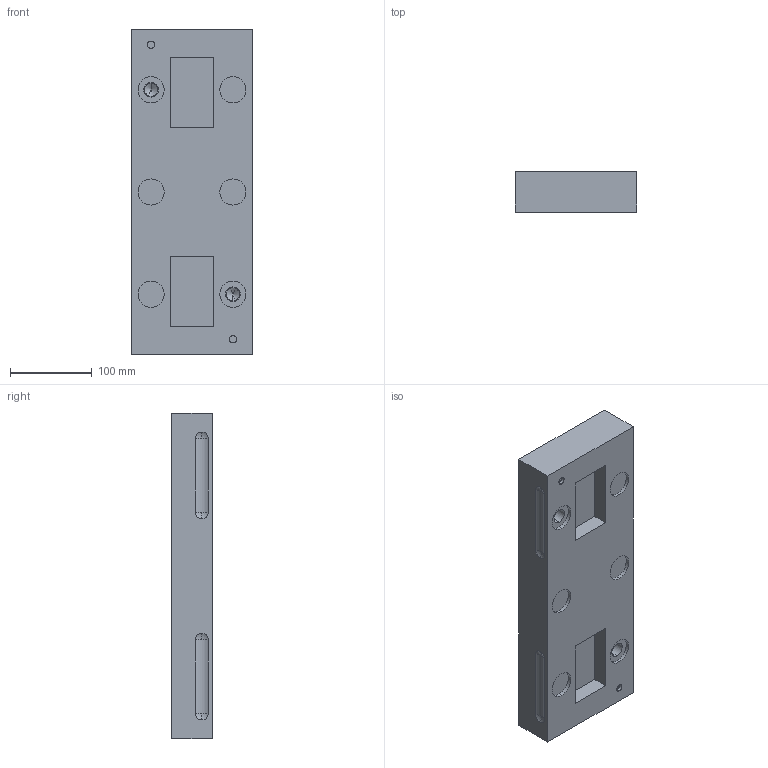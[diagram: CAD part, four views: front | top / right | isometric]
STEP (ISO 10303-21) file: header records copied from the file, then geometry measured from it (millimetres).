
FILE_DESCRIPTION (( 'STEP AP203' ), '1' );
FILE_NAME ('5FP1540-15-50.STEP', '2016-07-07T11:43:02', ( 'Greg' ), ( 'Microsoft' ), 'SwSTEP 2.0', 'SolidWorks 2015', '' );
FILE_SCHEMA (( 'CONFIG_CONTROL_DESIGN' ));
Length unit declared in the file: millimetre
Products named in the file (1): 5FP1540-15-50
Bounding box: 148 x 50 x 398 mm (x, y, z)
Volume: 2732886.1 mm3; surface area: 188123.6 mm2
Topology: 1 solids, 1 shells, 74 faces, 164 edges, 106 vertices
Faces by surface type: cylinder 28, plane 26, sphere 16, cone 4
Entity records: 2133 total; most frequent: DIRECTION 398, CARTESIAN_POINT 341, ORIENTED_EDGE 320, AXIS2_PLACEMENT_3D 163, EDGE_CURVE 160, VERTEX_POINT 106, EDGE_LOOP 92, CIRCLE 88
